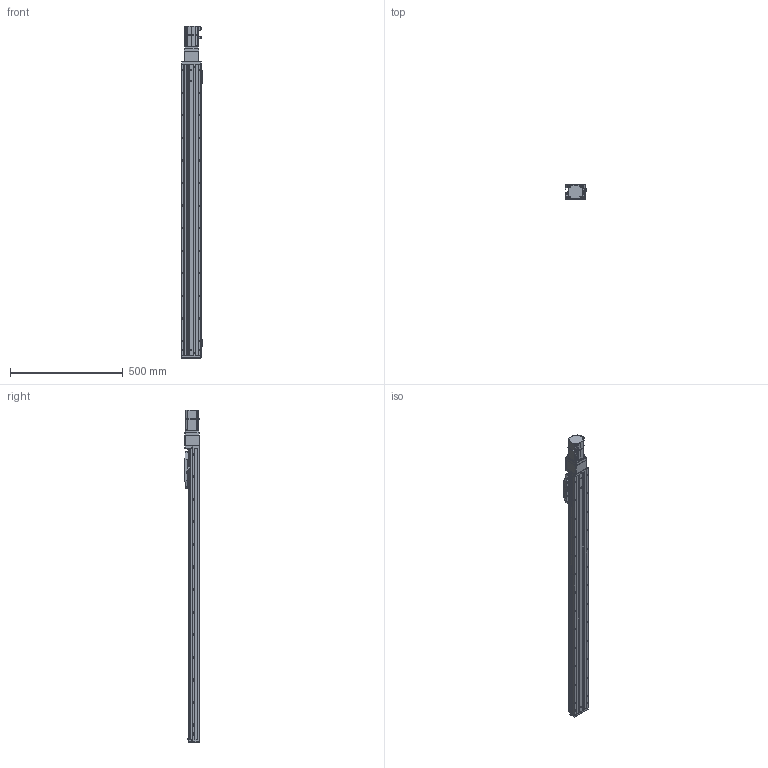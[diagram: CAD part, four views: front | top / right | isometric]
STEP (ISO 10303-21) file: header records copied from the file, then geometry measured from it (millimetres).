
FILE_DESCRIPTION (( 'STEP AP203' ), '1' );
FILE_NAME ('CTHA86-1100-BC-M20-C4L.step', '2022-04-26T00:45:53', ( '微软用户' ), ( '微软中国' ), 'SwSTEP 2.0', 'SolidWorks 2020', '' );
FILE_SCHEMA (( 'CONFIG_CONTROL_DESIGN' ));
Length unit declared in the file: millimetre
Products named in the file (22): GBT 70.3-M3℅6; CTHA60-021; CTHA86-013; KTHA86-001_1290; CTHA86-002; GBT77-2000 M3×3; KTHA86-004; CTHA86-031; GBT 70.1-M3×20; KTHA86-005; CTHA86-030; GBT70.1 M5℅16; CTHA86-027; GB¨uT 70.2-M3¡Á5_M3¡Á6; CTHA86-1100-BC-M20-C4L; GBT 70.1-M3×16; CTHA86-006-1_CTHA86-006-2; EE_SX911P_R; GBT 70.1-M3℅6; _X2_4E0983F1_X0_200W_1; CTHA60-017; CTHA60-016
Assembly tree (65 placements, depth 2):
  CTHA86-1100-BC-M20-C4L
    KTHA86-001_1290
    KTHA86-004
    KTHA86-005
    GB¨uT 70.2-M3¡Á5_M3¡Á6  x10
    EE_SX911P_R  x3
    CTHA60-017  x3
    CTHA60-021  x2
    GBT77-2000 M3×3  x6
    GBT 70.1-M3×20
    GBT70.1 M5℅16  x14
    GBT 70.1-M3×16
    GBT 70.1-M3℅6  x6
    CTHA60-016  x2
    CTHA86-013
    CTHA86-027
    CTHA86-006-1_CTHA86-006-2
    _X2_4E0983F1_X0_200W_1
    GBT 70.3-M3℅6  x6
    CTHA86-002
    CTHA86-031
    CTHA86-030  x2
Bounding box: 93.82 x 68 x 1470.5 mm (x, y, z)
Volume: 4787390 mm3; surface area: 824595.4 mm2
Topology: 67 solids, 67 shells, 2834 faces, 6807 edges, 4192 vertices
Faces by surface type: plane 1488, cylinder 733, cone 400, torus 120, bspline 69, sphere 24
Entity records: 51505 total; most frequent: CARTESIAN_POINT 9520, DIRECTION 8148, ORIENTED_EDGE 7870, EDGE_CURVE 3935, AXIS2_PLACEMENT_3D 2756, LINE 2636, VECTOR 2636, VERTEX_POINT 2470
